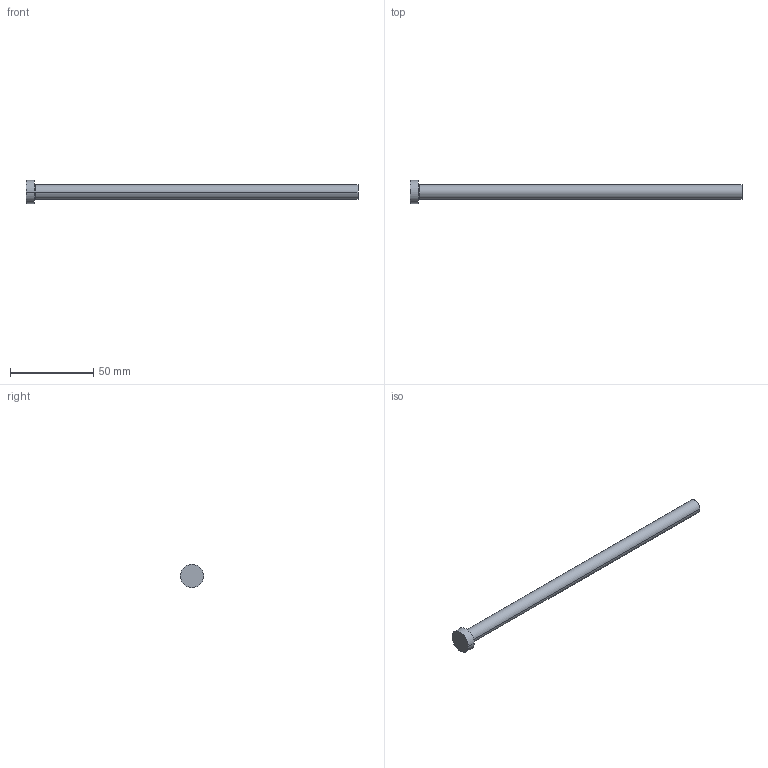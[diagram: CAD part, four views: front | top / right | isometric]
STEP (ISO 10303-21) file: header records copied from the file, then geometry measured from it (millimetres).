
FILE_DESCRIPTION (( 'STEP AP214' ), '1' );
FILE_NAME ('A-8,5x200.STEP', '2020-05-29T15:51:03', ( 'August' ), ( '' ), 'SwSTEP 2.0', 'SolidWorks 2018', '' );
FILE_SCHEMA (( 'AUTOMOTIVE_DESIGN' ));
Length unit declared in the file: millimetre
Products named in the file (1): A-8,5x200
Bounding box: 200 x 14 x 14 mm (x, y, z)
Volume: 11836.4 mm3; surface area: 5729.4 mm2
Topology: 1 solids, 1 shells, 9 faces, 16 edges, 10 vertices
Faces by surface type: cylinder 4, plane 3, torus 2
Entity records: 260 total; most frequent: DIRECTION 48, CARTESIAN_POINT 36, ORIENTED_EDGE 32, AXIS2_PLACEMENT_3D 22, EDGE_CURVE 16, CIRCLE 12, EDGE_LOOP 10, VERTEX_POINT 10
